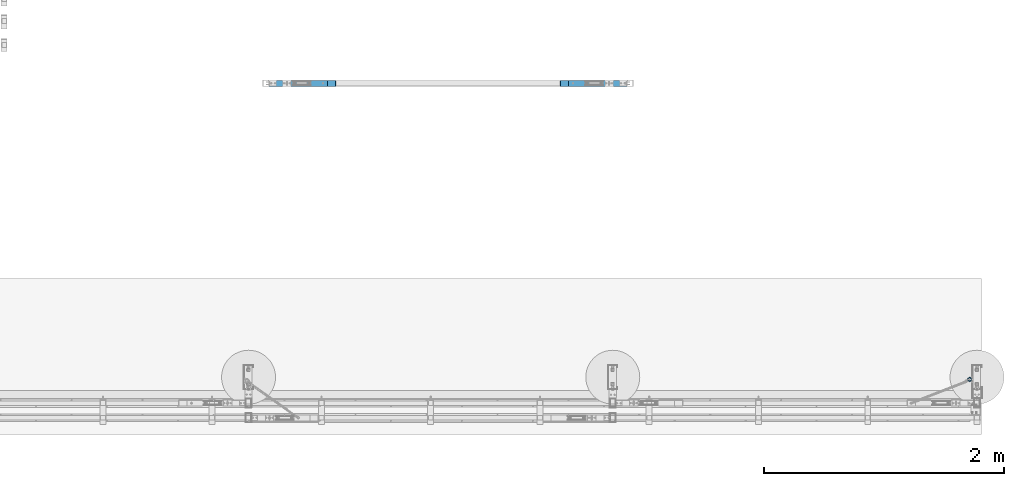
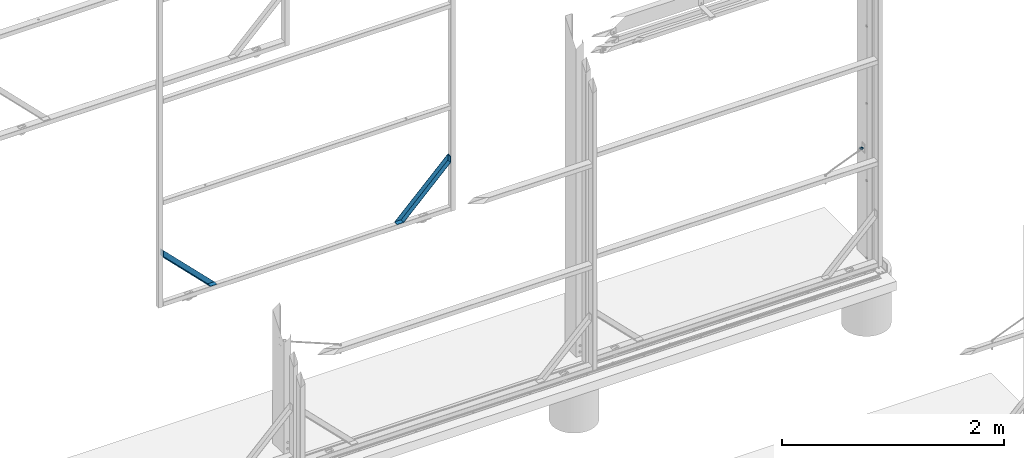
# One storey, part 88 of 91: 2 discrete accessories, 1 beam, 2 elements without a shape of their own.
"""IFC2X3 building model written with IfcOpenShell, lengths in millimetres."""

import ifcopenshell
import ifcopenshell.guid

model = None  # the IFC model being written
_history = None  # IfcOwnerHistory: only IFC2X3 demands one
_inside = {}  # id of a spatial element -> (the spatial element, [elements in it])
_under = {}  # id of a project, library or spatial element -> (it, [spatial elements below it])
_declared = {}  # id of a project -> (the project, [libraries it declares])
_typed = {}  # id of a type object -> (the type object, [elements of that type])
_made_of = {}  # id of a material, layer set ... -> (it, [elements and type objects made of it])


def new_model(schema):
    """Start an empty IFC model of exactly this schema.

    Asked for "IFC4X3", IfcOpenShell would pick the latest addendum, in which some entities
    have other attributes; the version numbers below select the first issue.
    IFC2X3 requires an IfcOwnerHistory on every rooted entity: one is made here for all.
    """
    global model, _history
    if schema == "IFC4X3":
        model = ifcopenshell.file(schema_version=(4, 3, 0, 0))
    else:
        model = ifcopenshell.file(schema=schema)
    _inside.clear()
    _under.clear()
    _declared.clear()
    _typed.clear()
    _made_of.clear()
    _history = None
    if model.schema == "IFC2X3":
        org = make("IfcOrganization", Name="unknown")
        user = make(
            "IfcPersonAndOrganization",
            ThePerson=make("IfcPerson", FamilyName="unknown"),
            TheOrganization=org,
        )
        app = make(
            "IfcApplication",
            ApplicationDeveloper=org,
            Version="unknown",
            ApplicationFullName="unknown",
            ApplicationIdentifier="unknown",
        )
        _history = make(
            "IfcOwnerHistory",
            OwningUser=user,
            OwningApplication=app,
            ChangeAction="ADDED",
            CreationDate=0,
        )
    return model


def make(cls, **values):
    """One entity of the class cls with the attributes given. An attribute that is None is left unset."""
    return model.create_entity(
        cls, **{name: value for name, value in values.items() if value is not None}
    )


def rooted(cls, **values):
    """An entity with a GlobalId (a new one), such as an element, a storey or a relation."""
    return make(cls, GlobalId=ifcopenshell.guid.new(), OwnerHistory=_history, **values)


def si_unit(unit_type, name, prefix=None):
    """IfcSIUnit, for example si_unit("LENGTHUNIT", "METRE", prefix="MILLI")."""
    return make("IfcSIUnit", UnitType=unit_type, Prefix=prefix, Name=name)


def assignment(units):
    """IfcUnitAssignment: the units of a project."""
    return None if units is None else make("IfcUnitAssignment", Units=units)


def point(xyz):
    """IfcCartesianPoint."""
    return None if xyz is None else make("IfcCartesianPoint", Coordinates=xyz)


def direction(xyz):
    """IfcDirection."""
    return None if xyz is None else make("IfcDirection", DirectionRatios=xyz)


def frame(location, z_axis=None, x_axis=None):
    """IfcAxis2Placement3D, a coordinate frame: its origin and axes. An axis left out is left unset."""
    return make(
        "IfcAxis2Placement3D",
        Location=point(location),
        Axis=direction(z_axis),
        RefDirection=direction(x_axis),
    )


def origin_with_axes():
    """The frame at (0, 0, 0) with the z axis (0, 0, 1) and the x axis (1, 0, 0) written out."""
    return frame((0.0, 0.0, 0.0), z_axis=(0.0, 0.0, 1.0), x_axis=(1.0, 0.0, 0.0))


def place(relative_to, where):
    """IfcLocalPlacement: puts the frame where relative to a parent placement (None: the world)."""
    return make(
        "IfcLocalPlacement", PlacementRelTo=relative_to, RelativePlacement=where
    )


def context(
    kind, dimensions, precision=None, world=None, true_north=None, identifier=None
):
    """IfcGeometricRepresentationContext, for example the 3D "Model" context."""
    return make(
        "IfcGeometricRepresentationContext",
        ContextIdentifier=identifier,
        ContextType=kind,
        CoordinateSpaceDimension=dimensions,
        Precision=precision,
        WorldCoordinateSystem=world,
        TrueNorth=true_north,
    )


def subcontext(parent, identifier, kind, view, scale=None):
    """IfcGeometricRepresentationSubContext, for example "Body" below "Model"."""
    return make(
        "IfcGeometricRepresentationSubContext",
        ContextIdentifier=identifier,
        ContextType=kind,
        ParentContext=parent,
        TargetScale=scale,
        TargetView=view,
    )


def project(units=None, contexts=None):
    """IfcProject with its units and contexts."""
    return rooted(
        "IfcProject",
        Name="project",
        RepresentationContexts=contexts,
        UnitsInContext=assignment(units),
    )


def spatial(cls, under=None, at=None, **own):
    """A site, building, storey or space (cls), placed at a placement, below another one or the project."""
    s = rooted(cls, ObjectPlacement=at, **own)
    if under is not None:
        _under.setdefault(under.id(), (under, []))[1].append(s)
    return s


def faces_of(points, faces, orient=None, outer=None):
    """IfcFace entities. A face is a list of loops; a loop is a list of indices into points, from 0.

    orient and outer hold one flag for each loop. By default every Orientation is true, the
    first loop of a face is its IfcFaceOuterBound and the others are IfcFaceBound.
    """
    made = []
    for i, loops in enumerate(faces):
        bounds = []
        for j, loop in enumerate(loops):
            is_outer = j == 0 if outer is None else outer[i][j]
            bounds.append(
                make(
                    "IfcFaceOuterBound" if is_outer else "IfcFaceBound",
                    Bound=make("IfcPolyLoop", Polygon=[points[k] for k in loop]),
                    Orientation=True if orient is None else orient[i][j],
                )
            )
        made.append(make("IfcFace", Bounds=bounds))
    return made


def faceted_brep(points, faces, orient=None, outer=None, voids=None):
    """IfcFacetedBrep: a solid bounded by flat faces; with voids (closed shells), ...WithVoids."""
    shared = [point(p) for p in points]
    hull = make("IfcClosedShell", CfsFaces=faces_of(shared, faces, orient, outer))
    if voids is None:
        return make("IfcFacetedBrep", Outer=hull)
    return make(
        "IfcFacetedBrepWithVoids",
        Outer=hull,
        Voids=[
            make(cls, CfsFaces=faces_of(shared, fs, o, b)) for cls, fs, o, b in voids
        ],
    )


def shape(context_of_items, identifier, shape_type, items):
    """IfcShapeRepresentation: the items that make up one representation, for example the "Body"."""
    return make(
        "IfcShapeRepresentation",
        ContextOfItems=context_of_items,
        RepresentationIdentifier=identifier,
        RepresentationType=shape_type,
        Items=items,
    )


def material(Name=None, Category=None):
    """IfcMaterial."""
    return make("IfcMaterial", Name=Name, Category=Category)


def made_of(thing, what):
    """Note that an element or type object is made of a material, layer set ...; save() writes the relation."""
    if what is not None:
        _made_of.setdefault(what.id(), (what, []))[1].append(thing)
    return thing


def type_object(cls, material=None, **own):
    """A type object (cls), such as IfcWallType, which elements share."""
    return made_of(rooted(cls, **own), material)


def element(
    cls,
    number,
    at=None,
    inside=None,
    cuts=None,
    type_object=None,
    material=None,
    context=None,
    identifier="Body",
    shape_type=None,
    held_by="IfcProductDefinitionShape",
    body=None,
    shapes=None,
    **own,
):
    """One element of the class cls, such as IfcWall. Its Tag is "e" and its number.

    at: its placement. inside: the storey or other place that contains it. cuts: it is an
    opening in that element (IfcRelVoidsElement). A single representation is given by context,
    identifier, shape_type and body (its items); several are given by shapes. held_by: the class
    of the entity that holds the representations. save() writes the other relations.
    """
    e = rooted(cls, Tag="e%d" % number, ObjectPlacement=at, **own)
    if body is not None:
        shapes = [shape(context, identifier, shape_type, body)]
    if shapes is not None:
        e.Representation = make(held_by, Representations=shapes)
    if inside is not None:
        _inside.setdefault(inside.id(), (inside, []))[1].append(e)
    if cuts is not None:
        rooted(
            "IfcRelVoidsElement", RelatingBuildingElement=cuts, RelatedOpeningElement=e
        )
    if type_object is not None:
        _typed.setdefault(type_object.id(), (type_object, []))[1].append(e)
    return made_of(e, material)


def aggregate(whole, parts):
    """IfcRelAggregates: a whole, such as a stair, and the parts it consists of."""
    return rooted("IfcRelAggregates", RelatingObject=whole, RelatedObjects=parts)


def save(model, path):
    """Write the relations noted so far, then the file.

    IfcRelAggregates (storeys below a building ...), IfcRelContainedInSpatialStructure (elements
    in a storey), IfcRelDefinesByType, IfcRelAssociatesMaterial and IfcRelDeclares: one each for
    every whole, place, type object, material and project.
    """
    for whole, parts in _under.values():
        aggregate(whole, parts)
    for where, things in _inside.values():
        rooted(
            "IfcRelContainedInSpatialStructure",
            RelatedElements=things,
            RelatingStructure=where,
        )
    for kind, things in _typed.values():
        rooted("IfcRelDefinesByType", RelatedObjects=things, RelatingType=kind)
    for what, things in _made_of.values():
        rooted("IfcRelAssociatesMaterial", RelatedObjects=things, RelatingMaterial=what)
    for by, libraries in _declared.values():
        rooted("IfcRelDeclares", RelatingContext=by, RelatedDefinitions=libraries)
    model.write(path)


model = new_model("IFC2X3")

# Units and contexts
model_context = context("Model", 3, precision=1e-05, world=origin_with_axes())
body_context = subcontext(model_context, "Body", "Model", "MODEL_VIEW")
ifc_project = project(units=[si_unit("LENGTHUNIT", "METRE", prefix="MILLI"), si_unit("AREAUNIT", "SQUARE_METRE"), si_unit("VOLUMEUNIT", "CUBIC_METRE"), si_unit("MASSUNIT", "GRAM", prefix="KILO"), si_unit("TIMEUNIT", "SECOND"), si_unit("PLANEANGLEUNIT", "RADIAN"), si_unit("SOLIDANGLEUNIT", "STERADIAN"), si_unit("THERMODYNAMICTEMPERATUREUNIT", "DEGREE_CELSIUS"), si_unit("LUMINOUSINTENSITYUNIT", "LUMEN")], contexts=[model_context])

# Site, building, storey
site_placement = place(None, origin_with_axes())
site = spatial("IfcSite", under=ifc_project, at=site_placement, Name="Undefined", CompositionType="ELEMENT")
building_placement = place(site_placement, origin_with_axes())
building = spatial("IfcBuilding", under=site, at=building_placement, Name="Undefined", CompositionType="ELEMENT")
storey_placement = place(building_placement, origin_with_axes())
storey = spatial("IfcBuildingStorey", under=building, at=storey_placement, Name="Undefined", CompositionType="ELEMENT", Elevation=0.0)

# Assembly, beam
assembly_1_placement = place(storey_placement, origin_with_axes())
assembly_1 = element("IfcElementAssembly", 1, at=assembly_1_placement, inside=storey, Name="LINKS", AssemblyPlace="NOTDEFINED", PredefinedType="RIGID_FRAME")
ifc_material_1 = material(Name="STEEL/250")
beam_type = type_object("IfcBeamType", Name="D5", PredefinedType="NOTDEFINED")
beam_placement = place(assembly_1_placement, frame((-107729.636959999, 87894.8948728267, 1162.34), z_axis=(0.0, 1.0, 0.0), x_axis=(-1.0, 0.0, 0.0)))
beam = element("IfcBeam", 2, at=beam_placement, type_object=beam_type, material=ifc_material_1, Name="LINKS", ObjectType="D5", context=body_context, shape_type="Brep", body=[
    faceted_brep([(31.767766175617, -1.76776700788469, 14.8999996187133), (32.4999992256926, -5.6170392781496e-08, 14.8999996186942), (32.4999992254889, -5.59666659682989e-08, 15.1000003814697), (31.7677661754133, -1.76776700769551, 15.1000003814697), (31.7677661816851, 1.76776689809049, 14.8999996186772), (31.7677661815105, 1.76776689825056, 15.1000003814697), (29.9999992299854, 2.49999994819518, 14.8999996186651), (29.9999992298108, 2.49999994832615, 15.1000003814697), (28.2322322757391, 1.76776690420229, 14.8999996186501), (28.232232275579, 1.76776690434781, 15.1000003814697), (27.4999992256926, -4.74974513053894e-08, 14.8999996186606), (27.4999992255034, -4.73810359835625e-08, 15.1000003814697), (28.2322322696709, -1.76776700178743, 14.8999996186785), (28.2322322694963, -1.76776700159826, 15.1000003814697), (29.999999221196, -2.5000000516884, 14.8999996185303), (29.9999992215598, -2.50000005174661, 15.100000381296), (28.0037777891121, -2.50000004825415, 22.5500001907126), (26.4728467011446, -1.76776699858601, 21.6661167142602), (25.8387142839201, -4.44706529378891e-08, 21.3000001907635), (26.4728467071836, 1.76776690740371, 21.666116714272), (28.0037777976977, 2.49999995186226, 22.5500001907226), (29.5347088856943, 1.76776690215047, 23.4338836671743), (30.1688413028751, -5.19503373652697e-08, 23.8000001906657), (29.5347088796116, -1.76776700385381, 23.4338836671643), (15.1008655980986, -2.49999993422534, 30.0000000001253), (22.5499994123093, -2.50000003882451, 28.0037785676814), (23.43388289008, -1.76776699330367, 29.5347096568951), (15.1008656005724, -1.767766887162, 31.7677669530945), (15.1008656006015, -1.76776688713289, 28.2322330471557), (21.6661159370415, -1.76776699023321, 26.4728474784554), (15.1008656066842, 6.58328644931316e-08, 27.5000000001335), (21.2999994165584, -3.6612618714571e-08, 25.8387150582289), (15.1008670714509, 1.76776695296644, 28.2322330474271), (21.6661159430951, 1.76776691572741, 26.4728474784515), (15.1008656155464, 2.50000006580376, 30.0), (22.5499994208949, 2.49999996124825, 28.0037785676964), (15.1000003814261, 1.76776695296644, 31.767766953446), (23.433882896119, 1.76776691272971, 29.5347096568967), (15.1008656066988, 6.58183125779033e-08, 32.5000000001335), (23.7999994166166, -4.09199856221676e-08, 30.1688420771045), (29.5347088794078, -1.76776700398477, 6.56611633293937), (28.0037777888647, -2.50000004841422, 7.44999980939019), (30.1688413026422, -5.2081304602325e-08, 6.19999980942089), (29.5347088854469, 1.7677669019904, 6.56611633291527), (28.0037777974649, 2.49999995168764, 7.44999980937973), (26.4728467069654, 1.7677669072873, 8.33388328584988), (25.8387142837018, -4.46161720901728e-08, 8.69999980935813), (26.4728467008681, -1.76776699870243, 8.33388328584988), (22.5499994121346, -2.50000003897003, 1.99622143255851), (21.6661159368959, -1.76776699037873, 3.52715252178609), (23.4338828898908, -1.76776699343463, 0.465290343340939), (23.7999994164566, -4.10655047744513e-08, -0.168842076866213), (23.4338828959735, 1.76776691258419, 0.465290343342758), (22.5499994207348, 2.49999996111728, 1.99622143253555), (21.666115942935, 1.76776691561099, 3.52715252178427), (21.2999994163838, -3.67290340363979e-08, 4.16128494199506), (15.100865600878, -1.76776688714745, 1.76776695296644), (15.1008656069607, 6.58183125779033e-08, 2.5), (15.1008655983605, -2.49999993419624, 0.0), (15.100865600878, -1.76776688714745, -1.76776695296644), (15.1008656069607, 6.58183125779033e-08, -2.5), (15.1008670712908, 1.76776695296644, -1.76776695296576), (15.1008656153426, 2.50000006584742, -8.84483597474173e-11), (15.1000003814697, 1.76776695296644, 1.76776695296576), (-1.56690095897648, 1.76776707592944, 14.899999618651), (-2.29913401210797, 1.25408405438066e-07, 14.8999996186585), (-2.2991340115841, 1.25524820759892e-07, 15.1000003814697), (-1.56690095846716, 1.7677670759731, 15.1000003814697), (-1.56690097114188, -1.76776683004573, 14.8999996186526), (-1.56690097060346, -1.76776682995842, 15.1000003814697), (0.200865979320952, -2.49999988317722, 14.8999996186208), (0.200865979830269, -2.49999988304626, 15.1000003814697), (1.96863293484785, -1.76776684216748, 14.8999996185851), (1.96863293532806, -1.76776684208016, 15.1000003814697), (2.70086598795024, 1.08309905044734e-07, 14.899999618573), (2.7008659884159, 1.08382664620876e-07, 15.1000003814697), (1.96863294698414, 1.7677670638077, 14.8999996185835), (1.96863294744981, 1.7677670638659, 15.1000003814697), (0.200865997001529, 2.50000011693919, 14.8999996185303), (0.200865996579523, 2.50000011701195, 15.1000003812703), (2.19708742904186, 2.5000001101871, 22.5500001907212), (3.72801851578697, 1.76776705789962, 21.6661167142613), (4.36215092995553, 1.02707417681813e-07, 21.3000001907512), (3.72801850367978, -1.76776684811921, 21.6661167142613), (2.19708741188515, -2.49999988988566, 22.5500001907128), (0.666156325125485, -1.76776683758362, 23.43388366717), (0.0320239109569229, 1.17594026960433e-07, 23.8000001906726), (0.66615633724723, 1.76776706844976, 23.4338836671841), (7.65086580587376, 2.50000009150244, 28.003778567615), (6.76698232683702, 1.76776704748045, 29.5347096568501), (8.53474927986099, 1.76776704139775, 26.4728474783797), (8.90086579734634, 8.71368683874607e-08, 25.8387150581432), (8.53474926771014, -1.76776686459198, 26.4728474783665), (7.65086578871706, -2.49999990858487, 28.0037785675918), (6.76698231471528, -1.76776685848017, 29.534709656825), (6.40086579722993, 9.57516022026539e-08, 30.1688420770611), (0.66615633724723, 1.76776706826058, 6.56611633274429), (2.19708742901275, 2.50000011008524, 7.44999980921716), (0.032023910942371, 1.1743395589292e-07, 6.19999980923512), (0.666156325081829, -1.76776683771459, 6.5661163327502), (2.19708741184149, -2.49999988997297, 7.44999980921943), (3.72801850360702, -1.76776684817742, 8.33388328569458), (4.36215092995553, 1.02634658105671e-07, 8.69999980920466), (3.72801851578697, 1.76776705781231, 8.33388328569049), (7.65086580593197, 2.50000009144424, 1.99622143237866), (8.5347492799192, 1.76776704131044, 3.52715252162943), (6.76698232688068, 1.76776704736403, 0.465290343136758), (6.40086579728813, 9.5635186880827e-08, -0.168842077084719), (6.76698231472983, -1.76776685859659, 0.465290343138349), (7.65086578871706, -2.49999990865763, 1.99622143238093), (8.53474926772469, -1.76776686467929, 3.52715252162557), (8.90086579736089, 8.70786607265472e-08, 4.16128494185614)], [[[0, 1, 2, 3]], [[1, 4, 5, 2]], [[4, 6, 7, 5]], [[6, 8, 9, 7]], [[8, 10, 11, 9]], [[10, 12, 13, 11]], [[12, 14, 15, 13]], [[13, 15, 16, 17]], [[11, 13, 17, 18]], [[9, 11, 18, 19]], [[7, 9, 19, 20]], [[5, 7, 20, 21]], [[2, 5, 21, 22]], [[3, 2, 22, 23]], [[24, 25, 26, 27]], [[28, 29, 25, 24]], [[30, 31, 29, 28]], [[32, 33, 31, 30]], [[34, 35, 33, 32]], [[36, 37, 35, 34]], [[38, 39, 37, 36]], [[27, 26, 39, 38]], [[22, 39, 26, 23]], [[21, 37, 39, 22]], [[20, 35, 37, 21]], [[19, 33, 35, 20]], [[18, 31, 33, 19]], [[17, 29, 31, 18]], [[16, 25, 29, 17]], [[23, 26, 25, 16]], [[15, 3, 23, 16]], [[14, 0, 3, 15]], [[40, 0, 14, 41]], [[42, 1, 0, 40]], [[43, 4, 1, 42]], [[44, 6, 4, 43]], [[45, 8, 6, 44]], [[46, 10, 8, 45]], [[47, 12, 10, 46]], [[41, 14, 12, 47]], [[48, 41, 47, 49]], [[50, 40, 41, 48]], [[51, 42, 40, 50]], [[52, 43, 42, 51]], [[53, 44, 43, 52]], [[54, 45, 44, 53]], [[55, 46, 45, 54]], [[49, 47, 46, 55]], [[56, 49, 55, 57]], [[58, 48, 49, 56]], [[59, 50, 48, 58]], [[60, 51, 50, 59]], [[61, 52, 51, 60]], [[62, 53, 52, 61]], [[63, 54, 53, 62]], [[57, 55, 54, 63]], [[64, 65, 66, 67]], [[65, 68, 69, 66]], [[68, 70, 71, 69]], [[70, 72, 73, 71]], [[72, 74, 75, 73]], [[74, 76, 77, 75]], [[76, 78, 79, 77]], [[77, 79, 80, 81]], [[75, 77, 81, 82]], [[73, 75, 82, 83]], [[71, 73, 83, 84]], [[69, 71, 84, 85]], [[66, 69, 85, 86]], [[67, 66, 86, 87]], [[88, 89, 36, 34]], [[90, 88, 34, 32]], [[91, 90, 32, 30]], [[92, 91, 30, 28]], [[93, 92, 28, 24]], [[94, 93, 24, 27]], [[95, 94, 27, 38]], [[89, 95, 38, 36]], [[86, 95, 89, 87]], [[85, 94, 95, 86]], [[84, 93, 94, 85]], [[83, 92, 93, 84]], [[82, 91, 92, 83]], [[81, 90, 91, 82]], [[80, 88, 90, 81]], [[87, 89, 88, 80]], [[79, 67, 87, 80]], [[78, 64, 67, 79]], [[96, 64, 78, 97]], [[98, 65, 64, 96]], [[99, 68, 65, 98]], [[100, 70, 68, 99]], [[101, 72, 70, 100]], [[102, 74, 72, 101]], [[103, 76, 74, 102]], [[97, 78, 76, 103]], [[104, 97, 103, 105]], [[106, 96, 97, 104]], [[107, 98, 96, 106]], [[108, 99, 98, 107]], [[109, 100, 99, 108]], [[110, 101, 100, 109]], [[111, 102, 101, 110]], [[105, 103, 102, 111]], [[105, 111, 57, 63]], [[104, 105, 63, 62]], [[106, 104, 62, 61]], [[107, 106, 61, 60]], [[108, 107, 60, 59]], [[109, 108, 59, 58]], [[110, 109, 58, 56]], [[111, 110, 56, 57]]]),
])
aggregate(assembly_1, [beam])

# Assembly, discrete accessories
assembly_2_placement = place(storey_placement, origin_with_axes())
assembly_2 = element("IfcElementAssembly", 3, at=assembly_2_placement, inside=storey, Name="Sliding Door Beam", AssemblyPlace="NOTDEFINED", PredefinedType="RIGID_FRAME")
ifc_material_2 = material(Name="STEEL/300PLUS")
discrete_accessory_type = type_object("IfcDiscreteAccessoryType", Name="Angle Brace")
discrete_accessory_1_placement = place(assembly_2_placement, frame((-111159.904935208, 90380.0, 57.9968313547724), z_axis=(0.0, 0.0, 1.0), x_axis=(1.0, 0.0, 0.0)))
discrete_accessory_1 = element("IfcDiscreteAccessory", 4, at=discrete_accessory_1_placement, type_object=discrete_accessory_type, material=ifc_material_2, Name="Angle Brace", ObjectType="EA50*50*3", context=body_context, shape_type="Brep", body=[
    faceted_brep([(70.7106780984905, 25.0, -24.9999999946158), (70.7106780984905, -25.0, -24.9999999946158), (1.90630089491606e-09, -25.0, -25.0), (1.90630089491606e-09, 25.0, -25.0), (558.614501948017, 25.0, 462.903808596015), (558.614501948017, -25.0, 462.903808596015), (558.614501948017, 25.0, 533.614501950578), (558.614501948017, -25.0, 533.614501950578), (555.614501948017, -25.0, 464.146449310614), (69.4680374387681, -25.0, -21.9999999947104), (2.999998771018, -25.0, -21.9999999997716), (555.614501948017, -25.0, 530.614483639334), (2.999998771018, 22.0, -21.9999999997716), (50.0000004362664, 22.0, 25.0000000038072), (50.0000004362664, 25.0, 25.0000000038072), (69.4680374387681, 22.0, -21.9999999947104), (555.614501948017, 22.0, 464.146449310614), (555.614501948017, 22.0, 530.614483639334), (508.614501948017, 22.0, 483.614487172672), (508.614501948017, 25.0, 483.614487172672)], [[[0, 1, 2, 3]], [[1, 0, 4, 5]], [[5, 4, 6, 7]], [[8, 9, 10, 2, 1, 5, 7, 11]], [[2, 10, 12, 13, 14, 3]], [[9, 15, 12, 10]], [[13, 12, 15, 16, 17, 18]], [[14, 13, 18, 19]], [[4, 0, 3, 14, 19, 6]], [[18, 17, 11, 7, 6, 19]], [[16, 8, 11, 17]], [[15, 9, 8, 16]]]),
])
discrete_accessory_2_placement = place(assembly_2_placement, frame((-113563.793168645, 90380.0, 591.614935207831), z_axis=(1.0, 0.0, 0.0), x_axis=(0.0, 0.0, -1.0)))
discrete_accessory_2 = element("IfcDiscreteAccessory", 5, at=discrete_accessory_2_placement, type_object=discrete_accessory_type, material=ifc_material_2, Name="Angle Brace", ObjectType="EA50*50*3", context=body_context, shape_type="Brep", body=[
    faceted_brep([(70.7106780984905, 25.0, -24.9999999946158), (70.7106780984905, -25.0, -24.9999999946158), (1.90630089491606e-09, -25.0, -25.0), (1.90630089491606e-09, 25.0, -25.0), (558.614501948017, 25.0, 462.903808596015), (558.614501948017, -25.0, 462.903808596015), (558.614501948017, 25.0, 533.614501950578), (558.614501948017, -25.0, 533.614501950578), (555.614501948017, -25.0, 464.146449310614), (69.4680374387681, -25.0, -21.9999999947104), (2.999998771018, -25.0, -21.9999999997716), (555.614501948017, -25.0, 530.614483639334), (2.999998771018, 22.0, -21.9999999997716), (50.0000004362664, 22.0, 25.0000000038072), (50.0000004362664, 25.0, 25.0000000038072), (69.4680374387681, 22.0, -21.9999999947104), (555.614501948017, 22.0, 464.146449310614), (555.614501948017, 22.0, 530.614483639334), (508.614501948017, 22.0, 483.614487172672), (508.614501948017, 25.0, 483.614487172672)], [[[0, 1, 2, 3]], [[1, 0, 4, 5]], [[5, 4, 6, 7]], [[8, 9, 10, 2, 1, 5, 7, 11]], [[2, 10, 12, 13, 14, 3]], [[9, 15, 12, 10]], [[13, 12, 15, 16, 17, 18]], [[14, 13, 18, 19]], [[4, 0, 3, 14, 19, 6]], [[18, 17, 11, 7, 6, 19]], [[16, 8, 11, 17]], [[15, 9, 8, 16]]]),
])
aggregate(assembly_2, [discrete_accessory_1, discrete_accessory_2])

save(model, "model.ifc")
